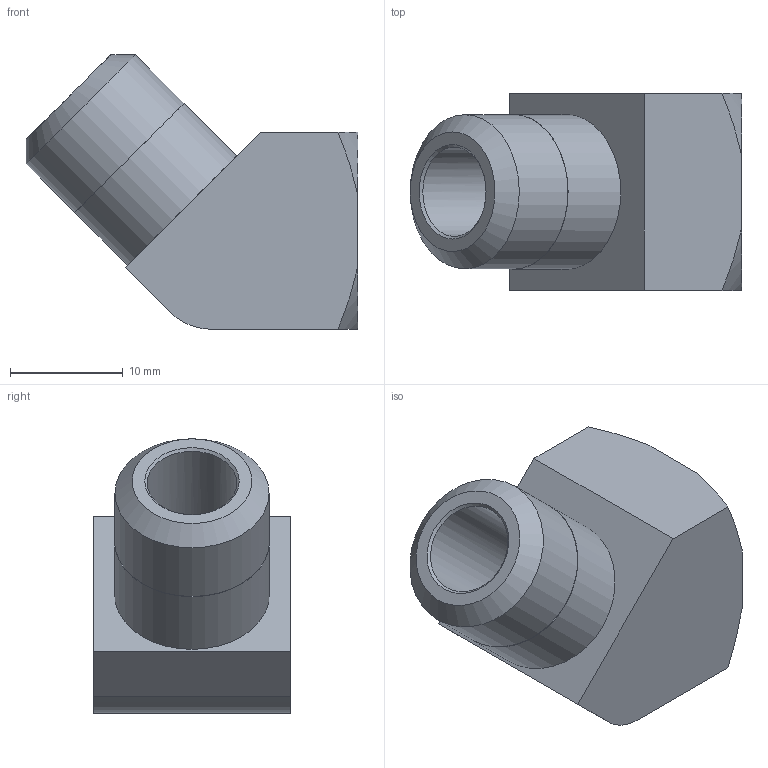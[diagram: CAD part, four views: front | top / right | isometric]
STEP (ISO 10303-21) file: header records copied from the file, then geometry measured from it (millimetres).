
FILE_DESCRIPTION(/* description */ (''),/* implementation_level */ '2;1');
FILE_NAME(/* name */ 'C:/Users/drich/Desktop/AL-14 v2.step',/* time_stamp */ '2020-02-09T11:04:21-06:00',/* author */ (''),/* organization */ (''),/* preprocessor_version */ 'ST-DEVELOPER v18',/* originating_system */ 'Autodesk Translation Framework v8.12.0.6',/* authorisation */ '');
FILE_SCHEMA (('AUTOMOTIVE_DESIGN { 1 0 10303 214 3 1 1 }'));
Length unit declared in the file: inch
Products named in the file (1): AL-14
Bounding box: 29.38 x 17.45 x 24.32 mm (x, y, z)
Volume: 4481.1 mm3; surface area: 2997.5 mm2
Topology: 1 solids, 1 shells, 24 faces, 58 edges, 39 vertices
Faces by surface type: plane 10, cone 8, cylinder 6
Full cylindrical faces by diameter (mm): 7.925 x1, 11.1 x1, 11.125 x1, 13.665 x1, 13.716 x1
Entity records: 803 total; most frequent: CARTESIAN_POINT 196, DIRECTION 120, ORIENTED_EDGE 116, EDGE_CURVE 58, AXIS2_PLACEMENT_3D 48, VERTEX_POINT 39, EDGE_LOOP 29, FACE_OUTER_BOUND 24
